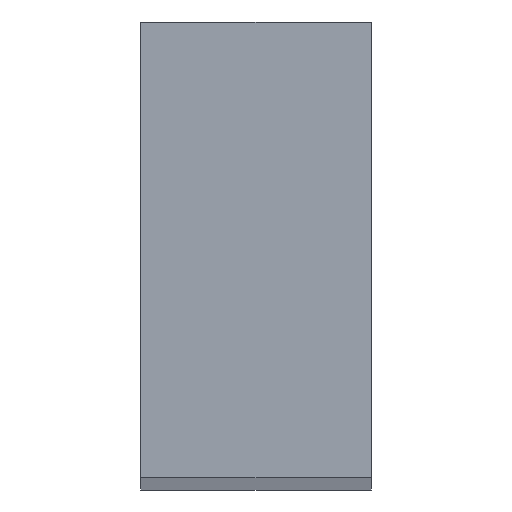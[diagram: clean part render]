
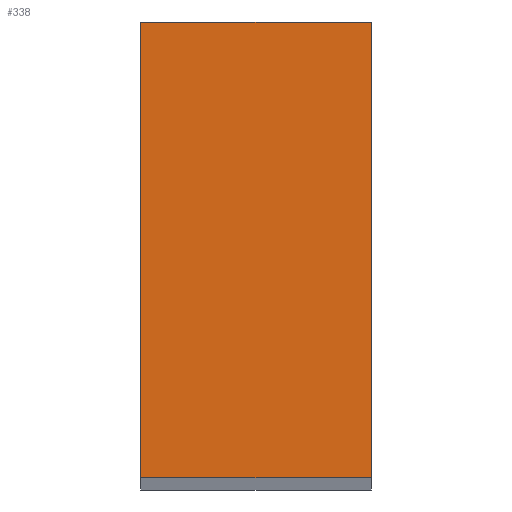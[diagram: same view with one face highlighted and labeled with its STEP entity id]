
A CAD part, top view. The second image highlights one B-rep face of the part: STEP entity #338.
In plain terms, the highlighted planar face has unit normal (0, 0, 1).
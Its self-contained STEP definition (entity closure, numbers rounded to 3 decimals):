
#24 = VERTEX_POINT('',#25);
#25 = CARTESIAN_POINT('',(-85.,-19.8,612.));
#32 = PLANE('',#33);
#33 = AXIS2_PLACEMENT_3D('',#34,#35,#36);
#34 = CARTESIAN_POINT('',(-85.,-19.8,12.));
#35 = DIRECTION('',(1.,0.,0.));
#36 = DIRECTION('',(0.,0.,1.));
#44 = PLANE('',#45);
#45 = AXIS2_PLACEMENT_3D('',#46,#47,#48);
#46 = CARTESIAN_POINT('',(-85.,-19.8,12.));
#47 = DIRECTION('',(0.,1.,0.));
#48 = DIRECTION('',(0.,0.,1.));
#85 = VERTEX_POINT('',#86);
#86 = CARTESIAN_POINT('',(-85.,19.8,612.));
#100 = PLANE('',#101);
#101 = AXIS2_PLACEMENT_3D('',#102,#103,#104);
#102 = CARTESIAN_POINT('',(-85.,19.8,12.));
#103 = DIRECTION('',(0.,1.,0.));
#104 = DIRECTION('',(0.,0.,1.));
#112 = EDGE_CURVE('',#24,#85,#113,.T.);
#113 = SURFACE_CURVE('',#114,(#118,#125),.PCURVE_S1.);
#114 = LINE('',#115,#116);
#115 = CARTESIAN_POINT('',(-85.,-19.8,612.));
#116 = VECTOR('',#117,1.);
#117 = DIRECTION('',(0.,1.,0.));
#118 = PCURVE('',#32,#119);
#119 = DEFINITIONAL_REPRESENTATION('',(#120),#124);
#120 = LINE('',#121,#122);
#121 = CARTESIAN_POINT('',(600.,0.));
#122 = VECTOR('',#123,1.);
#123 = DIRECTION('',(0.,-1.));
#124 = ( GEOMETRIC_REPRESENTATION_CONTEXT(2) 
PARAMETRIC_REPRESENTATION_CONTEXT() REPRESENTATION_CONTEXT('2D SPACE',''
  ) );
#125 = PCURVE('',#126,#131);
#126 = PLANE('',#127);
#127 = AXIS2_PLACEMENT_3D('',#128,#129,#130);
#128 = CARTESIAN_POINT('',(-85.,-19.8,612.));
#129 = DIRECTION('',(0.,0.,1.));
#130 = DIRECTION('',(1.,0.,0.));
#131 = DEFINITIONAL_REPRESENTATION('',(#132),#136);
#132 = LINE('',#133,#134);
#133 = CARTESIAN_POINT('',(0.,0.));
#134 = VECTOR('',#135,1.);
#135 = DIRECTION('',(0.,1.));
#136 = ( GEOMETRIC_REPRESENTATION_CONTEXT(2) 
PARAMETRIC_REPRESENTATION_CONTEXT() REPRESENTATION_CONTEXT('2D SPACE',''
  ) );
#144 = VERTEX_POINT('',#145);
#145 = CARTESIAN_POINT('',(-65.,-19.8,612.));
#152 = PLANE('',#153);
#153 = AXIS2_PLACEMENT_3D('',#154,#155,#156);
#154 = CARTESIAN_POINT('',(-65.,-19.8,12.));
#155 = DIRECTION('',(1.,0.,0.));
#156 = DIRECTION('',(0.,0.,1.));
#195 = VERTEX_POINT('',#196);
#196 = CARTESIAN_POINT('',(-65.,19.8,612.));
#217 = EDGE_CURVE('',#144,#195,#218,.T.);
#218 = SURFACE_CURVE('',#219,(#223,#230),.PCURVE_S1.);
#219 = LINE('',#220,#221);
#220 = CARTESIAN_POINT('',(-65.,-19.8,612.));
#221 = VECTOR('',#222,1.);
#222 = DIRECTION('',(0.,1.,0.));
#223 = PCURVE('',#152,#224);
#224 = DEFINITIONAL_REPRESENTATION('',(#225),#229);
#225 = LINE('',#226,#227);
#226 = CARTESIAN_POINT('',(600.,0.));
#227 = VECTOR('',#228,1.);
#228 = DIRECTION('',(0.,-1.));
#229 = ( GEOMETRIC_REPRESENTATION_CONTEXT(2) 
PARAMETRIC_REPRESENTATION_CONTEXT() REPRESENTATION_CONTEXT('2D SPACE',''
  ) );
#230 = PCURVE('',#126,#231);
#231 = DEFINITIONAL_REPRESENTATION('',(#232),#236);
#232 = LINE('',#233,#234);
#233 = CARTESIAN_POINT('',(20.,0.));
#234 = VECTOR('',#235,1.);
#235 = DIRECTION('',(0.,1.));
#236 = ( GEOMETRIC_REPRESENTATION_CONTEXT(2) 
PARAMETRIC_REPRESENTATION_CONTEXT() REPRESENTATION_CONTEXT('2D SPACE',''
  ) );
#263 = EDGE_CURVE('',#24,#144,#264,.T.);
#264 = SURFACE_CURVE('',#265,(#269,#276),.PCURVE_S1.);
#265 = LINE('',#266,#267);
#266 = CARTESIAN_POINT('',(-85.,-19.8,612.));
#267 = VECTOR('',#268,1.);
#268 = DIRECTION('',(1.,0.,0.));
#269 = PCURVE('',#44,#270);
#270 = DEFINITIONAL_REPRESENTATION('',(#271),#275);
#271 = LINE('',#272,#273);
#272 = CARTESIAN_POINT('',(600.,0.));
#273 = VECTOR('',#274,1.);
#274 = DIRECTION('',(0.,1.));
#275 = ( GEOMETRIC_REPRESENTATION_CONTEXT(2) 
PARAMETRIC_REPRESENTATION_CONTEXT() REPRESENTATION_CONTEXT('2D SPACE',''
  ) );
#276 = PCURVE('',#126,#277);
#277 = DEFINITIONAL_REPRESENTATION('',(#278),#282);
#278 = LINE('',#279,#280);
#279 = CARTESIAN_POINT('',(0.,0.));
#280 = VECTOR('',#281,1.);
#281 = DIRECTION('',(1.,0.));
#282 = ( GEOMETRIC_REPRESENTATION_CONTEXT(2) 
PARAMETRIC_REPRESENTATION_CONTEXT() REPRESENTATION_CONTEXT('2D SPACE',''
  ) );
#310 = EDGE_CURVE('',#85,#195,#311,.T.);
#311 = SURFACE_CURVE('',#312,(#316,#323),.PCURVE_S1.);
#312 = LINE('',#313,#314);
#313 = CARTESIAN_POINT('',(-85.,19.8,612.));
#314 = VECTOR('',#315,1.);
#315 = DIRECTION('',(1.,0.,0.));
#316 = PCURVE('',#100,#317);
#317 = DEFINITIONAL_REPRESENTATION('',(#318),#322);
#318 = LINE('',#319,#320);
#319 = CARTESIAN_POINT('',(600.,0.));
#320 = VECTOR('',#321,1.);
#321 = DIRECTION('',(0.,1.));
#322 = ( GEOMETRIC_REPRESENTATION_CONTEXT(2) 
PARAMETRIC_REPRESENTATION_CONTEXT() REPRESENTATION_CONTEXT('2D SPACE',''
  ) );
#323 = PCURVE('',#126,#324);
#324 = DEFINITIONAL_REPRESENTATION('',(#325),#329);
#325 = LINE('',#326,#327);
#326 = CARTESIAN_POINT('',(0.,39.6));
#327 = VECTOR('',#328,1.);
#328 = DIRECTION('',(1.,0.));
#329 = ( GEOMETRIC_REPRESENTATION_CONTEXT(2) 
PARAMETRIC_REPRESENTATION_CONTEXT() REPRESENTATION_CONTEXT('2D SPACE',''
  ) );
#338 = ADVANCED_FACE('',(#339),#126,.T.);
#339 = FACE_BOUND('',#340,.T.);
#340 = EDGE_LOOP('',(#341,#342,#343,#344));
#341 = ORIENTED_EDGE('',*,*,#112,.F.);
#342 = ORIENTED_EDGE('',*,*,#263,.T.);
#343 = ORIENTED_EDGE('',*,*,#217,.T.);
#344 = ORIENTED_EDGE('',*,*,#310,.F.);
